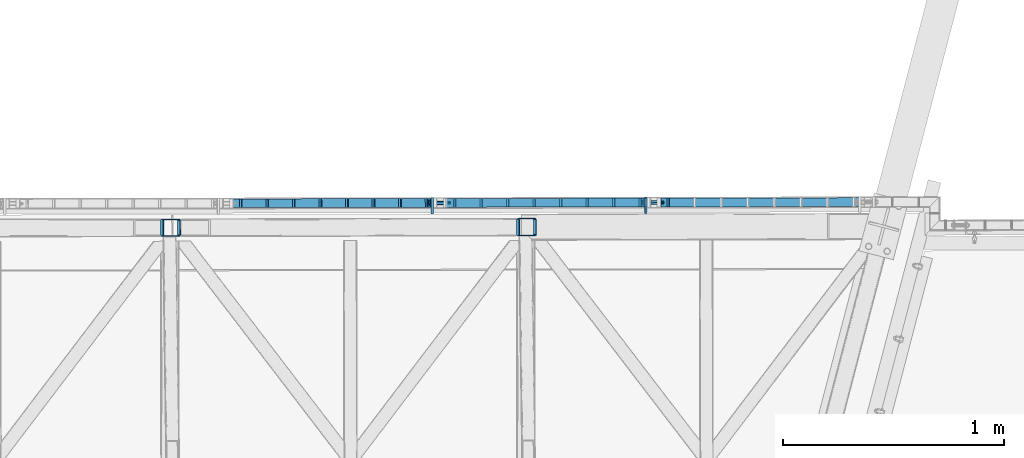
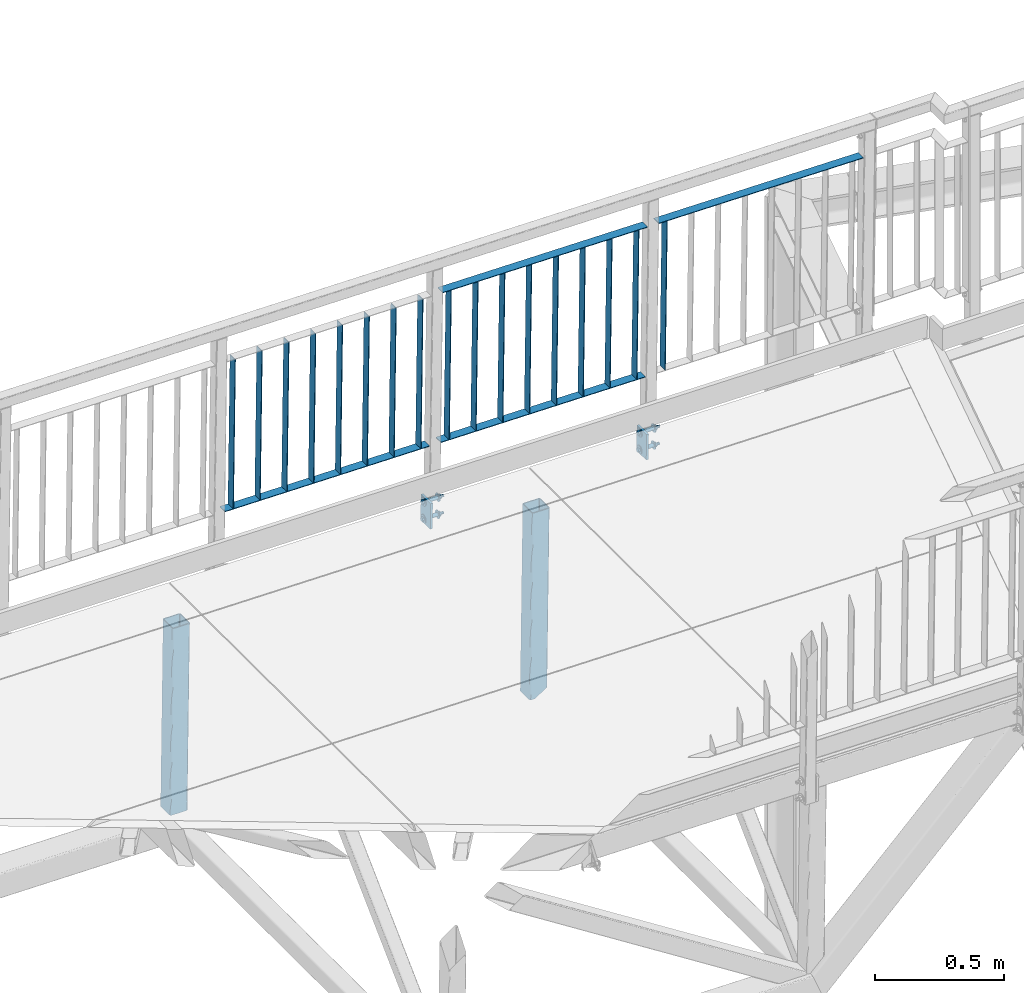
# One storey, part 121 of 169: 25 discrete accessories, 2 mechanical fasteners, 2 elements without a shape of their own.
"""IFC2X3 building model written with IfcOpenShell, lengths in millimetres."""

import ifcopenshell
import ifcopenshell.guid

model = None  # the IFC model being written
_history = None  # IfcOwnerHistory: only IFC2X3 demands one
_inside = {}  # id of a spatial element -> (the spatial element, [elements in it])
_under = {}  # id of a project, library or spatial element -> (it, [spatial elements below it])
_declared = {}  # id of a project -> (the project, [libraries it declares])
_typed = {}  # id of a type object -> (the type object, [elements of that type])
_made_of = {}  # id of a material, layer set ... -> (it, [elements and type objects made of it])


def new_model(schema):
    """Start an empty IFC model of exactly this schema.

    Asked for "IFC4X3", IfcOpenShell would pick the latest addendum, in which some entities
    have other attributes; the version numbers below select the first issue.
    IFC2X3 requires an IfcOwnerHistory on every rooted entity: one is made here for all.
    """
    global model, _history
    if schema == "IFC4X3":
        model = ifcopenshell.file(schema_version=(4, 3, 0, 0))
    else:
        model = ifcopenshell.file(schema=schema)
    _inside.clear()
    _under.clear()
    _declared.clear()
    _typed.clear()
    _made_of.clear()
    _history = None
    if model.schema == "IFC2X3":
        org = make("IfcOrganization", Name="unknown")
        user = make(
            "IfcPersonAndOrganization",
            ThePerson=make("IfcPerson", FamilyName="unknown"),
            TheOrganization=org,
        )
        app = make(
            "IfcApplication",
            ApplicationDeveloper=org,
            Version="unknown",
            ApplicationFullName="unknown",
            ApplicationIdentifier="unknown",
        )
        _history = make(
            "IfcOwnerHistory",
            OwningUser=user,
            OwningApplication=app,
            ChangeAction="ADDED",
            CreationDate=0,
        )
    return model


def make(cls, **values):
    """One entity of the class cls with the attributes given. An attribute that is None is left unset."""
    return model.create_entity(
        cls, **{name: value for name, value in values.items() if value is not None}
    )


def rooted(cls, **values):
    """An entity with a GlobalId (a new one), such as an element, a storey or a relation."""
    return make(cls, GlobalId=ifcopenshell.guid.new(), OwnerHistory=_history, **values)


def si_unit(unit_type, name, prefix=None):
    """IfcSIUnit, for example si_unit("LENGTHUNIT", "METRE", prefix="MILLI")."""
    return make("IfcSIUnit", UnitType=unit_type, Prefix=prefix, Name=name)


def assignment(units):
    """IfcUnitAssignment: the units of a project."""
    return None if units is None else make("IfcUnitAssignment", Units=units)


def point(xyz):
    """IfcCartesianPoint."""
    return None if xyz is None else make("IfcCartesianPoint", Coordinates=xyz)


def direction(xyz):
    """IfcDirection."""
    return None if xyz is None else make("IfcDirection", DirectionRatios=xyz)


def frame(location, z_axis=None, x_axis=None):
    """IfcAxis2Placement3D, a coordinate frame: its origin and axes. An axis left out is left unset."""
    return make(
        "IfcAxis2Placement3D",
        Location=point(location),
        Axis=direction(z_axis),
        RefDirection=direction(x_axis),
    )


def frame_2d(location, x_axis=None):
    """IfcAxis2Placement2D, a coordinate frame in the plane: its origin and x axis."""
    return make(
        "IfcAxis2Placement2D", Location=point(location), RefDirection=direction(x_axis)
    )


def origin_with_axes():
    """The frame at (0, 0, 0) with the z axis (0, 0, 1) and the x axis (1, 0, 0) written out."""
    return frame((0.0, 0.0, 0.0), z_axis=(0.0, 0.0, 1.0), x_axis=(1.0, 0.0, 0.0))


def origin_2d_with_axis():
    """The frame at (0, 0) in the plane with the x axis (1, 0) written out."""
    return frame_2d((0.0, 0.0), x_axis=(1.0, 0.0))


def place(relative_to, where):
    """IfcLocalPlacement: puts the frame where relative to a parent placement (None: the world)."""
    return make(
        "IfcLocalPlacement", PlacementRelTo=relative_to, RelativePlacement=where
    )


def context(
    kind, dimensions, precision=None, world=None, true_north=None, identifier=None
):
    """IfcGeometricRepresentationContext, for example the 3D "Model" context."""
    return make(
        "IfcGeometricRepresentationContext",
        ContextIdentifier=identifier,
        ContextType=kind,
        CoordinateSpaceDimension=dimensions,
        Precision=precision,
        WorldCoordinateSystem=world,
        TrueNorth=true_north,
    )


def subcontext(parent, identifier, kind, view, scale=None):
    """IfcGeometricRepresentationSubContext, for example "Body" below "Model"."""
    return make(
        "IfcGeometricRepresentationSubContext",
        ContextIdentifier=identifier,
        ContextType=kind,
        ParentContext=parent,
        TargetScale=scale,
        TargetView=view,
    )


def project(units=None, contexts=None):
    """IfcProject with its units and contexts."""
    return rooted(
        "IfcProject",
        Name="project",
        RepresentationContexts=contexts,
        UnitsInContext=assignment(units),
    )


def spatial(cls, under=None, at=None, **own):
    """A site, building, storey or space (cls), placed at a placement, below another one or the project."""
    s = rooted(cls, ObjectPlacement=at, **own)
    if under is not None:
        _under.setdefault(under.id(), (under, []))[1].append(s)
    return s


def polyline(points):
    """IfcPolyline through the points."""
    return make("IfcPolyline", Points=[point(p) for p in points])


def profile(cls, at=None, kind="AREA", **sizes):
    """A parametric profile (cls). Its sizes go by their IFC names, for example OverallWidth=200.0."""
    return make(cls, ProfileType=kind, Position=at, **sizes)


def rectangle(**sizes):
    """IfcRectangleProfileDef."""
    return profile("IfcRectangleProfileDef", **sizes)


def hollow_rectangle(**sizes):
    """IfcRectangleHollowProfileDef."""
    return profile("IfcRectangleHollowProfileDef", **sizes)


def circle(**sizes):
    """IfcCircleProfileDef."""
    return profile("IfcCircleProfileDef", **sizes)


def outline(outer, holes=None, kind="AREA"):
    """IfcArbitraryClosedProfileDef: a profile drawn as a closed curve; with holes, ...WithVoids."""
    if holes is None:
        return make("IfcArbitraryClosedProfileDef", ProfileType=kind, OuterCurve=outer)
    return make(
        "IfcArbitraryProfileDefWithVoids",
        ProfileType=kind,
        OuterCurve=outer,
        InnerCurves=holes,
    )


def extrude(swept, where, along, depth):
    """IfcExtrudedAreaSolid: the profile swept, set in the frame where, extruded along a direction by depth."""
    return make(
        "IfcExtrudedAreaSolid",
        SweptArea=swept,
        Position=where,
        ExtrudedDirection=direction(along),
        Depth=depth,
    )


def boolean(op, a, b):
    """IfcBooleanResult of two solids."""
    return make("IfcBooleanResult", Operator=op, FirstOperand=a, SecondOperand=b)


def clip(a, b, op="DIFFERENCE"):
    """IfcBooleanClippingResult: the solid a cut by the half space b."""
    return make(
        "IfcBooleanClippingResult", Operator=op, FirstOperand=a, SecondOperand=b
    )


def halfspace(plane, agree):
    """IfcHalfSpaceSolid: all space on one side of the plane z = 0 of the frame plane."""
    return make(
        "IfcHalfSpaceSolid",
        BaseSurface=make("IfcPlane", Position=plane),
        AgreementFlag=agree,
    )


def shape(context_of_items, identifier, shape_type, items):
    """IfcShapeRepresentation: the items that make up one representation, for example the "Body"."""
    return make(
        "IfcShapeRepresentation",
        ContextOfItems=context_of_items,
        RepresentationIdentifier=identifier,
        RepresentationType=shape_type,
        Items=items,
    )


def source(mapping_origin, context_of_items, identifier, shape_type, items):
    """IfcRepresentationMap: a shape defined once, which mapped items show again and again."""
    return make(
        "IfcRepresentationMap",
        MappingOrigin=mapping_origin,
        MappedRepresentation=shape(context_of_items, identifier, shape_type, items),
    )


def transform(
    local_origin,
    x_axis=None,
    y_axis=None,
    z_axis=None,
    scale=None,
    scale2=None,
    scale3=None,
    uniform=True,
):
    """IfcCartesianTransformationOperator3D, or its non-uniform kind. x_axis, y_axis, z_axis: its Axis1, 2, 3."""
    if uniform:
        return make(
            "IfcCartesianTransformationOperator3D",
            Axis1=direction(x_axis),
            Axis2=direction(y_axis),
            LocalOrigin=point(local_origin),
            Scale=scale,
            Axis3=direction(z_axis),
        )
    return make(
        "IfcCartesianTransformationOperator3DnonUniform",
        Axis1=direction(x_axis),
        Axis2=direction(y_axis),
        LocalOrigin=point(local_origin),
        Scale=scale,
        Axis3=direction(z_axis),
        Scale2=scale2,
        Scale3=scale3,
    )


def mapped(mapping_source, mapping_target):
    """IfcMappedItem: shows the shape of a source again, moved by a transform."""
    return make(
        "IfcMappedItem", MappingSource=mapping_source, MappingTarget=mapping_target
    )


def material(Name=None, Category=None):
    """IfcMaterial."""
    return make("IfcMaterial", Name=Name, Category=Category)


def made_of(thing, what):
    """Note that an element or type object is made of a material, layer set ...; save() writes the relation."""
    if what is not None:
        _made_of.setdefault(what.id(), (what, []))[1].append(thing)
    return thing


def type_object(cls, material=None, **own):
    """A type object (cls), such as IfcWallType, which elements share."""
    return made_of(rooted(cls, **own), material)


def element(
    cls,
    number,
    at=None,
    inside=None,
    cuts=None,
    type_object=None,
    material=None,
    context=None,
    identifier="Body",
    shape_type=None,
    held_by="IfcProductDefinitionShape",
    body=None,
    shapes=None,
    **own,
):
    """One element of the class cls, such as IfcWall. Its Tag is "e" and its number.

    at: its placement. inside: the storey or other place that contains it. cuts: it is an
    opening in that element (IfcRelVoidsElement). A single representation is given by context,
    identifier, shape_type and body (its items); several are given by shapes. held_by: the class
    of the entity that holds the representations. save() writes the other relations.
    """
    e = rooted(cls, Tag="e%d" % number, ObjectPlacement=at, **own)
    if body is not None:
        shapes = [shape(context, identifier, shape_type, body)]
    if shapes is not None:
        e.Representation = make(held_by, Representations=shapes)
    if inside is not None:
        _inside.setdefault(inside.id(), (inside, []))[1].append(e)
    if cuts is not None:
        rooted(
            "IfcRelVoidsElement", RelatingBuildingElement=cuts, RelatedOpeningElement=e
        )
    if type_object is not None:
        _typed.setdefault(type_object.id(), (type_object, []))[1].append(e)
    return made_of(e, material)


def aggregate(whole, parts):
    """IfcRelAggregates: a whole, such as a stair, and the parts it consists of."""
    return rooted("IfcRelAggregates", RelatingObject=whole, RelatedObjects=parts)


def save(model, path):
    """Write the relations noted so far, then the file.

    IfcRelAggregates (storeys below a building ...), IfcRelContainedInSpatialStructure (elements
    in a storey), IfcRelDefinesByType, IfcRelAssociatesMaterial and IfcRelDeclares: one each for
    every whole, place, type object, material and project.
    """
    for whole, parts in _under.values():
        aggregate(whole, parts)
    for where, things in _inside.values():
        rooted(
            "IfcRelContainedInSpatialStructure",
            RelatedElements=things,
            RelatingStructure=where,
        )
    for kind, things in _typed.values():
        rooted("IfcRelDefinesByType", RelatedObjects=things, RelatingType=kind)
    for what, things in _made_of.values():
        rooted("IfcRelAssociatesMaterial", RelatedObjects=things, RelatingMaterial=what)
    for by, libraries in _declared.values():
        rooted("IfcRelDeclares", RelatingContext=by, RelatedDefinitions=libraries)
    model.write(path)


model = new_model("IFC2X3")

# Units and contexts
model_context = context("Model", 3, precision=1e-05, world=origin_with_axes())
body_context = subcontext(model_context, "Body", "Model", "MODEL_VIEW")
ifc_project = project(units=[si_unit("LENGTHUNIT", "METRE", prefix="MILLI"), si_unit("AREAUNIT", "SQUARE_METRE"), si_unit("VOLUMEUNIT", "CUBIC_METRE"), si_unit("MASSUNIT", "GRAM", prefix="KILO"), si_unit("TIMEUNIT", "SECOND"), si_unit("PLANEANGLEUNIT", "RADIAN"), si_unit("SOLIDANGLEUNIT", "STERADIAN"), si_unit("THERMODYNAMICTEMPERATUREUNIT", "DEGREE_CELSIUS"), si_unit("LUMINOUSINTENSITYUNIT", "LUMEN")], contexts=[model_context])

# Site, building, storey
site_placement = place(None, origin_with_axes())
site = spatial("IfcSite", under=ifc_project, at=site_placement, Name="Undefined", CompositionType="ELEMENT")
building_placement = place(site_placement, origin_with_axes())
building = spatial("IfcBuilding", under=site, at=building_placement, Name="Undefined", CompositionType="ELEMENT")
storey_placement = place(building_placement, origin_with_axes())
storey = spatial("IfcBuildingStorey", under=building, at=storey_placement, Name="Undefined", CompositionType="ELEMENT", Elevation=0.0)

# Assembly, discrete accessories
assembly_1_placement = place(storey_placement, origin_with_axes())
assembly_1 = element("IfcElementAssembly", 1, at=assembly_1_placement, inside=storey, Name="Steel Assembly", AssemblyPlace="NOTDEFINED", PredefinedType="RIGID_FRAME")
ifc_material_1 = material(Name="STEEL/S235")
discrete_accessory_type_1 = type_object("IfcDiscreteAccessoryType", Name="BLACHA")
discrete_accessory_1_placement = place(assembly_1_placement, frame((17920.5853901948, 2338.43720336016, 13726.3743389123), z_axis=(0.9999174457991, 0.00186469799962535, -0.0127131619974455), x_axis=(-0.0018648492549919, 0.999998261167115, -4.2996762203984e-08)))
discrete_accessory_1 = element("IfcDiscreteAccessory", 2, at=discrete_accessory_1_placement, type_object=discrete_accessory_type_1, material=ifc_material_1, Name="BLACHA", ObjectType="BL10*120", context=body_context, shape_type="SweptSolid", body=[
    extrude(outline(polyline([(-5.35749222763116e-11, -59.9999999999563), (5.3567816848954e-11, 59.9999999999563), (75.0000002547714, 59.9999999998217), (75.0000002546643, -60.0000000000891), (-5.35749222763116e-11, -59.9999999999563)])), frame((-1.81898926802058e-12, -1.18000176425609e-16, -5.00000000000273), z_axis=(0.0, 0.0, 1.0), x_axis=(1.0, 0.0, 0.0)), (0.0, 0.0, 1.0), 10.0),
])
discrete_accessory_2_placement = place(assembly_1_placement, frame((16953.9707362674, 2336.63461110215, 13738.6640821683), z_axis=(0.9999174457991, 0.00186469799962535, -0.0127131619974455), x_axis=(-0.0018648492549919, 0.999998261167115, -4.2996762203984e-08)))
discrete_accessory_2 = element("IfcDiscreteAccessory", 3, at=discrete_accessory_2_placement, type_object=discrete_accessory_type_1, material=ifc_material_1, Name="BLACHA", ObjectType="BL10*120", context=body_context, shape_type="SweptSolid", body=[
    extrude(outline(polyline([(-5.35749222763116e-11, -59.9999999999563), (5.3567816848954e-11, 59.9999999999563), (75.0000002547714, 59.9999999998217), (75.0000002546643, -60.0000000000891), (-5.35749222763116e-11, -59.9999999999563)])), frame((-1.81898926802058e-12, -1.18000176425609e-16, -5.00000000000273), z_axis=(0.0, 0.0, 1.0), x_axis=(1.0, 0.0, 0.0)), (0.0, 0.0, 1.0), 10.0),
])
ifc_material_2 = material(Name="STEEL/S355")
discrete_accessory_type_2 = type_object("IfcDiscreteAccessoryType", Name="BEAM")
discrete_accessory_3_placement = place(assembly_1_placement, frame((17375.1949048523, 2277.42009863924, 12733.2290422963), z_axis=(-0.999917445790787, -0.00186469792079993, 0.0127131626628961), x_axis=(0.012713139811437, 2.3750999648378e-05, 0.999919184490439)))
discrete_accessory_3 = element("IfcDiscreteAccessory", 4, at=discrete_accessory_3_placement, type_object=discrete_accessory_type_2, material=ifc_material_2, Name="BEAM", ObjectType="K80/4", context=body_context, shape_type="CSG", body=[
    boolean("DIFFERENCE", boolean("DIFFERENCE", boolean("DIFFERENCE", boolean("DIFFERENCE", extrude(hollow_rectangle(XDim=80.0, YDim=80.0, WallThickness=4.0, InnerFilletRadius=4.0, OuterFilletRadius=8.0, at=origin_2d_with_axis()), frame((940.000112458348, 4.54747487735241e-13, 0.0), z_axis=(-1.0, -3.46944695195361e-18, -1.38777878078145e-17), x_axis=(1.73472347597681e-18, -1.0, 0.0)), (0.0, 0.0, 1.0), 940.98), extrude(rectangle(XDim=122.0, YDim=122.0, at=origin_2d_with_axis()), frame((54.4322938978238, 1.04372085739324e-07, -84.8443317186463), z_axis=(-0.539666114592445, -1.04408014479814e-09, 0.841879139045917), x_axis=(-0.841879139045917, -5.61803909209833e-10, -0.539666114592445)), (0.0, 0.0, 1.0), 201.56)), extrude(rectangle(XDim=122.0, YDim=122.0, at=origin_2d_with_axis()), frame((0.000109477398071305, -4.09399143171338e-06, -139.999999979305), z_axis=(0.0, 0.0, 1.0), x_axis=(-1.0, -3.46944695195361e-18, -1.38777878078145e-17)), (0.0, 0.0, 1.0), 280.0)), halfspace(frame((940.000112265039, -6.72889655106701e-09, 999.999999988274), z_axis=(-1.0, -3.46944695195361e-18, -1.38777878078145e-17), x_axis=(1.73472347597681e-18, -1.0, 0.0)), True)), halfspace(frame((1.92503648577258e-08, -1.77351466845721e-11, 0.0700467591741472), z_axis=(-0.841879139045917, -5.61803909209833e-10, -0.539666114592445), x_axis=(1.73472347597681e-18, -1.0, 0.0)), False)),
])
discrete_accessory_4_placement = place(assembly_1_placement, frame((15765.3277764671, 2274.41793420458, 12753.6972333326), z_axis=(-0.999917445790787, -0.00186469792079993, 0.0127131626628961), x_axis=(0.012713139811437, 2.3750999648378e-05, 0.999919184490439)))
discrete_accessory_4 = element("IfcDiscreteAccessory", 5, at=discrete_accessory_4_placement, type_object=discrete_accessory_type_2, material=ifc_material_2, Name="BEAM", ObjectType="K80/4", context=body_context, shape_type="Clipping", body=[
    clip(clip(extrude(hollow_rectangle(XDim=80.0, YDim=80.0, WallThickness=4.0, InnerFilletRadius=4.0, OuterFilletRadius=8.0, at=origin_2d_with_axis()), frame((940.000112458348, 4.54747487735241e-13, 0.0), z_axis=(-1.0, -3.46944695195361e-18, -1.38777878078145e-17), x_axis=(1.73472347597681e-18, -1.0, 0.0)), (0.0, 0.0, 1.0), 880.0), halfspace(frame((940.000112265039, -6.72889655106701e-09, 999.999999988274), z_axis=(-1.0, -3.46944695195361e-18, -1.38777878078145e-17), x_axis=(1.73472347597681e-18, -1.0, 0.0)), True)), halfspace(frame((60.0001122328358, 8.14088707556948e-09, 1000.00000001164), z_axis=(1.0, 0.0, 0.0), x_axis=(0.0, 1.0, 0.0)), True)),
])
aggregate(assembly_1, [discrete_accessory_1, discrete_accessory_2, discrete_accessory_3, discrete_accessory_4])

# Assembly, discrete accessories, mechanical fasteners
assembly_2_placement = place(storey_placement, origin_with_axes())
assembly_2 = element("IfcElementAssembly", 6, at=assembly_2_placement, inside=storey, Name="Steel Assembly", AssemblyPlace="NOTDEFINED", PredefinedType="RIGID_FRAME")
discrete_accessory_type_3 = type_object("IfcDiscreteAccessoryType", Name="PORĘCZ")
discrete_accessory_5_placement = place(assembly_2_placement, frame((16996.7788543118, 2386.71457782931, 14753.2006570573), z_axis=(-0.012713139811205, -2.37511238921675e-05, -0.999919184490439), x_axis=(0.9999174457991, 0.00186469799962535, -0.0127131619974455)))
discrete_accessory_5 = element("IfcDiscreteAccessory", 7, at=discrete_accessory_5_placement, type_object=discrete_accessory_type_3, material=ifc_material_1, Name="PORĘCZ", ObjectType="BL40*3", context=body_context, shape_type="CSG", body=[
    boolean("DIFFERENCE", boolean("DIFFERENCE", extrude(outline(polyline([(25.4999999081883, 20.0000000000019), (941.194458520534, 20.0000000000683), (941.194458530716, -19.9999999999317), (25.499999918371, -19.9999999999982), (25.4999999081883, 20.0000000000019)])), frame((1.81898940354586e-12, -1.77635442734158e-15, -1.50000000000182), z_axis=(0.0, 0.0, 1.0), x_axis=(1.0, 0.0, 0.0)), (0.0, 0.0, 1.0), 3.0), extrude(rectangle(XDim=51.0, YDim=51.0, at=origin_2d_with_axis()), frame((-5.94487782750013e-08, -4.65977194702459e-09, -139.999999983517), z_axis=(0.0, 0.0, 1.0), x_axis=(1.0, 0.0, 0.0)), (0.0, 0.0, 1.0), 280.0)), extrude(rectangle(XDim=51.0, YDim=51.0, at=origin_2d_with_axis()), frame((966.694458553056, -6.96000839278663e-09, -139.999999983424), z_axis=(0.0, 0.0, 1.0), x_axis=(1.0, 0.0, 0.0)), (0.0, 0.0, 1.0), 280.0)),
])
discrete_accessory_6_placement = place(assembly_2_placement, frame((17963.3935082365, 2388.51717105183, 14740.910913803), z_axis=(-0.012713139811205, -2.37511238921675e-05, -0.999919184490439), x_axis=(0.9999174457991, 0.00186469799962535, -0.0127131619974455)))
discrete_accessory_6 = element("IfcDiscreteAccessory", 8, at=discrete_accessory_6_placement, type_object=discrete_accessory_type_3, material=ifc_material_1, Name="PORĘCZ", ObjectType="BL40*3", context=body_context, shape_type="CSG", body=[
    boolean("DIFFERENCE", boolean("DIFFERENCE", extrude(outline(polyline([(25.4999999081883, 20.0000000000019), (941.194458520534, 20.0000000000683), (941.194458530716, -19.9999999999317), (25.499999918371, -19.9999999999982), (25.4999999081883, 20.0000000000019)])), frame((1.81898940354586e-12, -1.77635442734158e-15, -1.50000000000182), z_axis=(0.0, 0.0, 1.0), x_axis=(1.0, 0.0, 0.0)), (0.0, 0.0, 1.0), 3.0), extrude(rectangle(XDim=51.0, YDim=51.0, at=origin_2d_with_axis()), frame((-5.94487782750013e-08, -4.65977194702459e-09, -139.999999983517), z_axis=(0.0, 0.0, 1.0), x_axis=(1.0, 0.0, 0.0)), (0.0, 0.0, 1.0), 280.0)), extrude(rectangle(XDim=51.0, YDim=51.0, at=origin_2d_with_axis()), frame((966.694458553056, -6.96000839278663e-09, -139.999999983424), z_axis=(0.0, 0.0, 1.0), x_axis=(1.0, 0.0, 0.0)), (0.0, 0.0, 1.0), 280.0)),
])
discrete_accessory_7_placement = place(assembly_2_placement, frame((16095.3496052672, 2385.03355197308, 14909.6733384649), z_axis=(0.00186484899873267, -0.999998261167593, 4.28757666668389e-08), x_axis=(-0.012713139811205, -2.37511238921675e-05, -0.999919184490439)))
discrete_accessory_7 = element("IfcDiscreteAccessory", 9, at=discrete_accessory_7_placement, type_object=discrete_accessory_type_3, material=ifc_material_1, Name="PORĘCZ", ObjectType="BL40*3", context=body_context, shape_type="Clipping", body=[
    clip(clip(extrude(rectangle(XDim=3.0, YDim=40.0, at=origin_2d_with_axis()), frame((848.500000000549, 1.47191286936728e-15, -8.89750592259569e-16), z_axis=(-1.0, -3.46944695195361e-18, -1.38777878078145e-17), x_axis=(1.73472347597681e-18, -1.0, 0.0)), (0.0, 0.0, 1.0), 702.0), halfspace(frame((848.499999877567, 4.522007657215e-09, 1000.00000000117), z_axis=(-1.0, -3.46944695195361e-18, -1.38777878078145e-17), x_axis=(1.73472347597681e-18, -1.0, 0.0)), True)), halfspace(frame((146.499999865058, 4.97311702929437e-09, 1000.00000000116), z_axis=(1.0, 0.0, 0.0), x_axis=(0.0, 1.0, 0.0)), True)),
])
discrete_accessory_8_placement = place(assembly_2_placement, frame((16215.3396987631, 2385.25731573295, 14908.1477590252), z_axis=(0.00186484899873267, -0.999998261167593, 4.28757666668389e-08), x_axis=(-0.012713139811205, -2.37511238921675e-05, -0.999919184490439)))
discrete_accessory_8 = element("IfcDiscreteAccessory", 10, at=discrete_accessory_8_placement, type_object=discrete_accessory_type_3, material=ifc_material_1, Name="PORĘCZ", ObjectType="BL40*3", context=body_context, shape_type="Clipping", body=[
    clip(clip(extrude(rectangle(XDim=3.0, YDim=40.0, at=origin_2d_with_axis()), frame((848.500000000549, 1.47191286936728e-15, -8.89750592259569e-16), z_axis=(-1.0, -3.46944695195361e-18, -1.38777878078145e-17), x_axis=(1.73472347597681e-18, -1.0, 0.0)), (0.0, 0.0, 1.0), 702.0), halfspace(frame((848.499999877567, 4.522007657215e-09, 1000.00000000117), z_axis=(-1.0, -3.46944695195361e-18, -1.38777878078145e-17), x_axis=(1.73472347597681e-18, -1.0, 0.0)), True)), halfspace(frame((146.499999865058, 4.97311702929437e-09, 1000.00000000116), z_axis=(1.0, 0.0, 0.0), x_axis=(0.0, 1.0, 0.0)), True)),
])
discrete_accessory_9_placement = place(assembly_2_placement, frame((16335.3297922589, 2385.48107949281, 14906.6221795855), z_axis=(0.00186484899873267, -0.999998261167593, 4.28757666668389e-08), x_axis=(-0.012713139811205, -2.37511238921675e-05, -0.999919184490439)))
discrete_accessory_9 = element("IfcDiscreteAccessory", 11, at=discrete_accessory_9_placement, type_object=discrete_accessory_type_3, material=ifc_material_1, Name="PORĘCZ", ObjectType="BL40*3", context=body_context, shape_type="Clipping", body=[
    clip(clip(extrude(rectangle(XDim=3.0, YDim=40.0, at=origin_2d_with_axis()), frame((848.500000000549, 1.47191286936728e-15, -8.89750592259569e-16), z_axis=(-1.0, -3.46944695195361e-18, -1.38777878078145e-17), x_axis=(1.73472347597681e-18, -1.0, 0.0)), (0.0, 0.0, 1.0), 702.0), halfspace(frame((848.499999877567, 4.522007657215e-09, 1000.00000000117), z_axis=(-1.0, -3.46944695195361e-18, -1.38777878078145e-17), x_axis=(1.73472347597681e-18, -1.0, 0.0)), True)), halfspace(frame((146.499999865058, 4.97311702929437e-09, 1000.00000000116), z_axis=(1.0, 0.0, 0.0), x_axis=(0.0, 1.0, 0.0)), True)),
])
discrete_accessory_10_placement = place(assembly_2_placement, frame((16455.3198857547, 2385.70484325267, 14905.0966001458), z_axis=(0.00186484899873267, -0.999998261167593, 4.28757666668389e-08), x_axis=(-0.012713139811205, -2.37511238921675e-05, -0.999919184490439)))
discrete_accessory_10 = element("IfcDiscreteAccessory", 12, at=discrete_accessory_10_placement, type_object=discrete_accessory_type_3, material=ifc_material_1, Name="PORĘCZ", ObjectType="BL40*3", context=body_context, shape_type="Clipping", body=[
    clip(clip(extrude(rectangle(XDim=3.0, YDim=40.0, at=origin_2d_with_axis()), frame((848.500000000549, 1.47191286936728e-15, -8.89750592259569e-16), z_axis=(-1.0, -3.46944695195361e-18, -1.38777878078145e-17), x_axis=(1.73472347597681e-18, -1.0, 0.0)), (0.0, 0.0, 1.0), 702.0), halfspace(frame((848.499999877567, 4.522007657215e-09, 1000.00000000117), z_axis=(-1.0, -3.46944695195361e-18, -1.38777878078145e-17), x_axis=(1.73472347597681e-18, -1.0, 0.0)), True)), halfspace(frame((146.499999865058, 4.97311702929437e-09, 1000.00000000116), z_axis=(1.0, 0.0, 0.0), x_axis=(0.0, 1.0, 0.0)), True)),
])
discrete_accessory_11_placement = place(assembly_2_placement, frame((16575.3099792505, 2385.92860701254, 14903.5710207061), z_axis=(0.00186484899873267, -0.999998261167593, 4.28757666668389e-08), x_axis=(-0.012713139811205, -2.37511238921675e-05, -0.999919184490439)))
discrete_accessory_11 = element("IfcDiscreteAccessory", 13, at=discrete_accessory_11_placement, type_object=discrete_accessory_type_3, material=ifc_material_1, Name="PORĘCZ", ObjectType="BL40*3", context=body_context, shape_type="Clipping", body=[
    clip(clip(extrude(rectangle(XDim=3.0, YDim=40.0, at=origin_2d_with_axis()), frame((848.500000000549, 1.47191286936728e-15, -8.89750592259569e-16), z_axis=(-1.0, -3.46944695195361e-18, -1.38777878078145e-17), x_axis=(1.73472347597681e-18, -1.0, 0.0)), (0.0, 0.0, 1.0), 702.0), halfspace(frame((848.499999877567, 4.522007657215e-09, 1000.00000000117), z_axis=(-1.0, -3.46944695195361e-18, -1.38777878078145e-17), x_axis=(1.73472347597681e-18, -1.0, 0.0)), True)), halfspace(frame((146.499999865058, 4.97311702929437e-09, 1000.00000000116), z_axis=(1.0, 0.0, 0.0), x_axis=(0.0, 1.0, 0.0)), True)),
])
discrete_accessory_12_placement = place(assembly_2_placement, frame((16695.3000727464, 2386.1523707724, 14902.0454412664), z_axis=(0.00186484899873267, -0.999998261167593, 4.28757666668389e-08), x_axis=(-0.012713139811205, -2.37511238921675e-05, -0.999919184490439)))
discrete_accessory_12 = element("IfcDiscreteAccessory", 14, at=discrete_accessory_12_placement, type_object=discrete_accessory_type_3, material=ifc_material_1, Name="PORĘCZ", ObjectType="BL40*3", context=body_context, shape_type="Clipping", body=[
    clip(clip(extrude(rectangle(XDim=3.0, YDim=40.0, at=origin_2d_with_axis()), frame((848.500000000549, 1.47191286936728e-15, -8.89750592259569e-16), z_axis=(-1.0, -3.46944695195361e-18, -1.38777878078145e-17), x_axis=(1.73472347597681e-18, -1.0, 0.0)), (0.0, 0.0, 1.0), 702.0), halfspace(frame((848.499999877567, 4.522007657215e-09, 1000.00000000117), z_axis=(-1.0, -3.46944695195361e-18, -1.38777878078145e-17), x_axis=(1.73472347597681e-18, -1.0, 0.0)), True)), halfspace(frame((146.499999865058, 4.97311702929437e-09, 1000.00000000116), z_axis=(1.0, 0.0, 0.0), x_axis=(0.0, 1.0, 0.0)), True)),
])
discrete_accessory_13_placement = place(assembly_2_placement, frame((16815.2901662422, 2386.37613453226, 14900.5198618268), z_axis=(0.00186484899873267, -0.999998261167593, 4.28757666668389e-08), x_axis=(-0.012713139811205, -2.37511238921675e-05, -0.999919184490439)))
discrete_accessory_13 = element("IfcDiscreteAccessory", 15, at=discrete_accessory_13_placement, type_object=discrete_accessory_type_3, material=ifc_material_1, Name="PORĘCZ", ObjectType="BL40*3", context=body_context, shape_type="Clipping", body=[
    clip(clip(extrude(rectangle(XDim=3.0, YDim=40.0, at=origin_2d_with_axis()), frame((848.500000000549, 1.47191286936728e-15, -8.89750592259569e-16), z_axis=(-1.0, -3.46944695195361e-18, -1.38777878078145e-17), x_axis=(1.73472347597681e-18, -1.0, 0.0)), (0.0, 0.0, 1.0), 702.0), halfspace(frame((848.499999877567, 4.522007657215e-09, 1000.00000000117), z_axis=(-1.0, -3.46944695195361e-18, -1.38777878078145e-17), x_axis=(1.73472347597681e-18, -1.0, 0.0)), True)), halfspace(frame((146.499999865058, 4.97311702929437e-09, 1000.00000000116), z_axis=(1.0, 0.0, 0.0), x_axis=(0.0, 1.0, 0.0)), True)),
])
discrete_accessory_14_placement = place(assembly_2_placement, frame((16935.280259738, 2386.59989829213, 14898.9942823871), z_axis=(0.00186484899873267, -0.999998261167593, 4.28757666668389e-08), x_axis=(-0.012713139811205, -2.37511238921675e-05, -0.999919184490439)))
discrete_accessory_14 = element("IfcDiscreteAccessory", 16, at=discrete_accessory_14_placement, type_object=discrete_accessory_type_3, material=ifc_material_1, Name="PORĘCZ", ObjectType="BL40*3", context=body_context, shape_type="Clipping", body=[
    clip(clip(extrude(rectangle(XDim=3.0, YDim=40.0, at=origin_2d_with_axis()), frame((848.500000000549, 1.47191286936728e-15, -8.89750592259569e-16), z_axis=(-1.0, -3.46944695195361e-18, -1.38777878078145e-17), x_axis=(1.73472347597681e-18, -1.0, 0.0)), (0.0, 0.0, 1.0), 702.0), halfspace(frame((848.499999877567, 4.522007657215e-09, 1000.00000000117), z_axis=(-1.0, -3.46944695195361e-18, -1.38777878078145e-17), x_axis=(1.73472347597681e-18, -1.0, 0.0)), True)), halfspace(frame((146.499999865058, 4.97311702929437e-09, 1000.00000000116), z_axis=(1.0, 0.0, 0.0), x_axis=(0.0, 1.0, 0.0)), True)),
])
discrete_accessory_15_placement = place(assembly_2_placement, frame((17061.9642591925, 2386.83614519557, 14897.3835952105), z_axis=(0.00186484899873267, -0.999998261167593, 4.28757666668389e-08), x_axis=(-0.012713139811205, -2.37511238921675e-05, -0.999919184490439)))
discrete_accessory_15 = element("IfcDiscreteAccessory", 17, at=discrete_accessory_15_placement, type_object=discrete_accessory_type_3, material=ifc_material_1, Name="PORĘCZ", ObjectType="BL40*3", context=body_context, shape_type="Clipping", body=[
    clip(clip(extrude(rectangle(XDim=3.0, YDim=40.0, at=origin_2d_with_axis()), frame((848.500000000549, 1.47191286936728e-15, -8.89750592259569e-16), z_axis=(-1.0, -3.46944695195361e-18, -1.38777878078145e-17), x_axis=(1.73472347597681e-18, -1.0, 0.0)), (0.0, 0.0, 1.0), 702.0), halfspace(frame((848.499999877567, 4.522007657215e-09, 1000.00000000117), z_axis=(-1.0, -3.46944695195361e-18, -1.38777878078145e-17), x_axis=(1.73472347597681e-18, -1.0, 0.0)), True)), halfspace(frame((146.499999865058, 4.97311702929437e-09, 1000.00000000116), z_axis=(1.0, 0.0, 0.0), x_axis=(0.0, 1.0, 0.0)), True)),
])
discrete_accessory_16_placement = place(assembly_2_placement, frame((17181.9543526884, 2387.05990895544, 14895.8580157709), z_axis=(0.00186484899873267, -0.999998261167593, 4.28757666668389e-08), x_axis=(-0.012713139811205, -2.37511238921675e-05, -0.999919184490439)))
discrete_accessory_16 = element("IfcDiscreteAccessory", 18, at=discrete_accessory_16_placement, type_object=discrete_accessory_type_3, material=ifc_material_1, Name="PORĘCZ", ObjectType="BL40*3", context=body_context, shape_type="Clipping", body=[
    clip(clip(extrude(rectangle(XDim=3.0, YDim=40.0, at=origin_2d_with_axis()), frame((848.500000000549, 1.47191286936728e-15, -8.89750592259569e-16), z_axis=(-1.0, -3.46944695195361e-18, -1.38777878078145e-17), x_axis=(1.73472347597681e-18, -1.0, 0.0)), (0.0, 0.0, 1.0), 702.0), halfspace(frame((848.499999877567, 4.522007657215e-09, 1000.00000000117), z_axis=(-1.0, -3.46944695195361e-18, -1.38777878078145e-17), x_axis=(1.73472347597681e-18, -1.0, 0.0)), True)), halfspace(frame((146.499999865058, 4.97311702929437e-09, 1000.00000000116), z_axis=(1.0, 0.0, 0.0), x_axis=(0.0, 1.0, 0.0)), True)),
])
discrete_accessory_17_placement = place(assembly_2_placement, frame((17301.9444461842, 2387.2836727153, 14894.3324363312), z_axis=(0.00186484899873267, -0.999998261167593, 4.28757666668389e-08), x_axis=(-0.012713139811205, -2.37511238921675e-05, -0.999919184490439)))
discrete_accessory_17 = element("IfcDiscreteAccessory", 19, at=discrete_accessory_17_placement, type_object=discrete_accessory_type_3, material=ifc_material_1, Name="PORĘCZ", ObjectType="BL40*3", context=body_context, shape_type="Clipping", body=[
    clip(clip(extrude(rectangle(XDim=3.0, YDim=40.0, at=origin_2d_with_axis()), frame((848.500000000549, 1.47191286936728e-15, -8.89750592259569e-16), z_axis=(-1.0, -3.46944695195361e-18, -1.38777878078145e-17), x_axis=(1.73472347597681e-18, -1.0, 0.0)), (0.0, 0.0, 1.0), 702.0), halfspace(frame((848.499999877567, 4.522007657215e-09, 1000.00000000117), z_axis=(-1.0, -3.46944695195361e-18, -1.38777878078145e-17), x_axis=(1.73472347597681e-18, -1.0, 0.0)), True)), halfspace(frame((146.499999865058, 4.97311702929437e-09, 1000.00000000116), z_axis=(1.0, 0.0, 0.0), x_axis=(0.0, 1.0, 0.0)), True)),
])
discrete_accessory_18_placement = place(assembly_2_placement, frame((17421.93453968, 2387.50743647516, 14892.8068568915), z_axis=(0.00186484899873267, -0.999998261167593, 4.28757666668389e-08), x_axis=(-0.012713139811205, -2.37511238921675e-05, -0.999919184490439)))
discrete_accessory_18 = element("IfcDiscreteAccessory", 20, at=discrete_accessory_18_placement, type_object=discrete_accessory_type_3, material=ifc_material_1, Name="PORĘCZ", ObjectType="BL40*3", context=body_context, shape_type="Clipping", body=[
    clip(clip(extrude(rectangle(XDim=3.0, YDim=40.0, at=origin_2d_with_axis()), frame((848.500000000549, 1.47191286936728e-15, -8.89750592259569e-16), z_axis=(-1.0, -3.46944695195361e-18, -1.38777878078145e-17), x_axis=(1.73472347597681e-18, -1.0, 0.0)), (0.0, 0.0, 1.0), 702.0), halfspace(frame((848.499999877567, 4.522007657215e-09, 1000.00000000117), z_axis=(-1.0, -3.46944695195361e-18, -1.38777878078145e-17), x_axis=(1.73472347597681e-18, -1.0, 0.0)), True)), halfspace(frame((146.499999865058, 4.97311702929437e-09, 1000.00000000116), z_axis=(1.0, 0.0, 0.0), x_axis=(0.0, 1.0, 0.0)), True)),
])
discrete_accessory_19_placement = place(assembly_2_placement, frame((17541.9246331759, 2387.73120023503, 14891.2812774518), z_axis=(0.00186484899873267, -0.999998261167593, 4.28757666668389e-08), x_axis=(-0.012713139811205, -2.37511238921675e-05, -0.999919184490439)))
discrete_accessory_19 = element("IfcDiscreteAccessory", 21, at=discrete_accessory_19_placement, type_object=discrete_accessory_type_3, material=ifc_material_1, Name="PORĘCZ", ObjectType="BL40*3", context=body_context, shape_type="Clipping", body=[
    clip(clip(extrude(rectangle(XDim=3.0, YDim=40.0, at=origin_2d_with_axis()), frame((848.500000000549, 1.47191286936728e-15, -8.89750592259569e-16), z_axis=(-1.0, -3.46944695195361e-18, -1.38777878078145e-17), x_axis=(1.73472347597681e-18, -1.0, 0.0)), (0.0, 0.0, 1.0), 702.0), halfspace(frame((848.499999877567, 4.522007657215e-09, 1000.00000000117), z_axis=(-1.0, -3.46944695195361e-18, -1.38777878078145e-17), x_axis=(1.73472347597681e-18, -1.0, 0.0)), True)), halfspace(frame((146.499999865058, 4.97311702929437e-09, 1000.00000000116), z_axis=(1.0, 0.0, 0.0), x_axis=(0.0, 1.0, 0.0)), True)),
])
discrete_accessory_20_placement = place(assembly_2_placement, frame((17661.9147266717, 2387.95496399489, 14889.7556980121), z_axis=(0.00186484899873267, -0.999998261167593, 4.28757666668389e-08), x_axis=(-0.012713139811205, -2.37511238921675e-05, -0.999919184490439)))
discrete_accessory_20 = element("IfcDiscreteAccessory", 22, at=discrete_accessory_20_placement, type_object=discrete_accessory_type_3, material=ifc_material_1, Name="PORĘCZ", ObjectType="BL40*3", context=body_context, shape_type="Clipping", body=[
    clip(clip(extrude(rectangle(XDim=3.0, YDim=40.0, at=origin_2d_with_axis()), frame((848.500000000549, 1.47191286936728e-15, -8.89750592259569e-16), z_axis=(-1.0, -3.46944695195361e-18, -1.38777878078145e-17), x_axis=(1.73472347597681e-18, -1.0, 0.0)), (0.0, 0.0, 1.0), 702.0), halfspace(frame((848.499999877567, 4.522007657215e-09, 1000.00000000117), z_axis=(-1.0, -3.46944695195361e-18, -1.38777878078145e-17), x_axis=(1.73472347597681e-18, -1.0, 0.0)), True)), halfspace(frame((146.499999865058, 4.97311702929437e-09, 1000.00000000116), z_axis=(1.0, 0.0, 0.0), x_axis=(0.0, 1.0, 0.0)), True)),
])
discrete_accessory_21_placement = place(assembly_2_placement, frame((17781.9048201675, 2388.17872775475, 14888.2301185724), z_axis=(0.00186484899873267, -0.999998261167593, 4.28757666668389e-08), x_axis=(-0.012713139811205, -2.37511238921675e-05, -0.999919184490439)))
discrete_accessory_21 = element("IfcDiscreteAccessory", 23, at=discrete_accessory_21_placement, type_object=discrete_accessory_type_3, material=ifc_material_1, Name="PORĘCZ", ObjectType="BL40*3", context=body_context, shape_type="Clipping", body=[
    clip(clip(extrude(rectangle(XDim=3.0, YDim=40.0, at=origin_2d_with_axis()), frame((848.500000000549, 1.47191286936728e-15, -8.89750592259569e-16), z_axis=(-1.0, -3.46944695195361e-18, -1.38777878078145e-17), x_axis=(1.73472347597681e-18, -1.0, 0.0)), (0.0, 0.0, 1.0), 702.0), halfspace(frame((848.499999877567, 4.522007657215e-09, 1000.00000000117), z_axis=(-1.0, -3.46944695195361e-18, -1.38777878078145e-17), x_axis=(1.73472347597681e-18, -1.0, 0.0)), True)), halfspace(frame((146.499999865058, 4.97311702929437e-09, 1000.00000000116), z_axis=(1.0, 0.0, 0.0), x_axis=(0.0, 1.0, 0.0)), True)),
])
discrete_accessory_22_placement = place(assembly_2_placement, frame((17901.8949136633, 2388.40249151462, 14886.7045391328), z_axis=(0.00186484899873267, -0.999998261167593, 4.28757666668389e-08), x_axis=(-0.012713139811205, -2.37511238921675e-05, -0.999919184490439)))
discrete_accessory_22 = element("IfcDiscreteAccessory", 24, at=discrete_accessory_22_placement, type_object=discrete_accessory_type_3, material=ifc_material_1, Name="PORĘCZ", ObjectType="BL40*3", context=body_context, shape_type="Clipping", body=[
    clip(clip(extrude(rectangle(XDim=3.0, YDim=40.0, at=origin_2d_with_axis()), frame((848.500000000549, 1.47191286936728e-15, -8.89750592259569e-16), z_axis=(-1.0, -3.46944695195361e-18, -1.38777878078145e-17), x_axis=(1.73472347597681e-18, -1.0, 0.0)), (0.0, 0.0, 1.0), 702.0), halfspace(frame((848.499999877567, 4.522007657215e-09, 1000.00000000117), z_axis=(-1.0, -3.46944695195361e-18, -1.38777878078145e-17), x_axis=(1.73472347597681e-18, -1.0, 0.0)), True)), halfspace(frame((146.499999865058, 4.97311702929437e-09, 1000.00000000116), z_axis=(1.0, 0.0, 0.0), x_axis=(0.0, 1.0, 0.0)), True)),
])
discrete_accessory_23_placement = place(assembly_2_placement, frame((18028.5789131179, 2388.63873841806, 14885.0938519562), z_axis=(0.00186484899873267, -0.999998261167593, 4.28757666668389e-08), x_axis=(-0.012713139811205, -2.37511238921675e-05, -0.999919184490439)))
discrete_accessory_23 = element("IfcDiscreteAccessory", 25, at=discrete_accessory_23_placement, type_object=discrete_accessory_type_3, material=ifc_material_1, Name="PORĘCZ", ObjectType="BL40*3", context=body_context, shape_type="Clipping", body=[
    clip(clip(extrude(rectangle(XDim=3.0, YDim=40.0, at=origin_2d_with_axis()), frame((848.500000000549, 1.47191286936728e-15, -8.89750592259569e-16), z_axis=(-1.0, -3.46944695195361e-18, -1.38777878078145e-17), x_axis=(1.73472347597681e-18, -1.0, 0.0)), (0.0, 0.0, 1.0), 702.0), halfspace(frame((848.499999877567, 4.522007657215e-09, 1000.00000000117), z_axis=(-1.0, -3.46944695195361e-18, -1.38777878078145e-17), x_axis=(1.73472347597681e-18, -1.0, 0.0)), True)), halfspace(frame((146.499999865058, 4.97311702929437e-09, 1000.00000000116), z_axis=(1.0, 0.0, 0.0), x_axis=(0.0, 1.0, 0.0)), True)),
])
discrete_accessory_24_placement = place(assembly_2_placement, frame((16021.2014368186, 2384.89524006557, 14060.5473752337), z_axis=(-0.012713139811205, -2.37511238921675e-05, -0.999919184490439), x_axis=(0.9999174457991, 0.00186469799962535, -0.0127131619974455)))
discrete_accessory_24 = element("IfcDiscreteAccessory", 26, at=discrete_accessory_24_placement, type_object=discrete_accessory_type_3, material=ifc_material_1, Name="PORĘCZ", ObjectType="BL40*3", context=body_context, shape_type="CSG", body=[
    boolean("DIFFERENCE", boolean("DIFFERENCE", extrude(outline(polyline([(25.4999999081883, 20.0000000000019), (941.194458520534, 20.0000000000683), (941.194458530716, -19.9999999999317), (25.499999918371, -19.9999999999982), (25.4999999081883, 20.0000000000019)])), frame((1.81898940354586e-12, -1.77635442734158e-15, -1.50000000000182), z_axis=(0.0, 0.0, 1.0), x_axis=(1.0, 0.0, 0.0)), (0.0, 0.0, 1.0), 3.0), extrude(rectangle(XDim=51.0, YDim=51.0, at=origin_2d_with_axis()), frame((-5.94487782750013e-08, -4.65977194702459e-09, -139.999999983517), z_axis=(0.0, 0.0, 1.0), x_axis=(1.0, 0.0, 0.0)), (0.0, 0.0, 1.0), 280.0)), extrude(rectangle(XDim=51.0, YDim=51.0, at=origin_2d_with_axis()), frame((966.694458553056, -6.96000839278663e-09, -139.999999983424), z_axis=(0.0, 0.0, 1.0), x_axis=(1.0, 0.0, 0.0)), (0.0, 0.0, 1.0), 280.0)),
])
discrete_accessory_25_placement = place(assembly_2_placement, frame((16987.8160907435, 2386.69783328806, 14048.2576319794), z_axis=(-0.012713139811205, -2.37511238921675e-05, -0.999919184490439), x_axis=(0.9999174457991, 0.00186469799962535, -0.0127131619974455)))
discrete_accessory_25 = element("IfcDiscreteAccessory", 27, at=discrete_accessory_25_placement, type_object=discrete_accessory_type_3, material=ifc_material_1, Name="PORĘCZ", ObjectType="BL40*3", context=body_context, shape_type="CSG", body=[
    boolean("DIFFERENCE", boolean("DIFFERENCE", extrude(outline(polyline([(25.4999999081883, 20.0000000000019), (941.194458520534, 20.0000000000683), (941.194458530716, -19.9999999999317), (25.499999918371, -19.9999999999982), (25.4999999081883, 20.0000000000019)])), frame((1.81898940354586e-12, -1.77635442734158e-15, -1.50000000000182), z_axis=(0.0, 0.0, 1.0), x_axis=(1.0, 0.0, 0.0)), (0.0, 0.0, 1.0), 3.0), extrude(rectangle(XDim=51.0, YDim=51.0, at=origin_2d_with_axis()), frame((-5.94487782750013e-08, -4.65977194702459e-09, -139.999999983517), z_axis=(0.0, 0.0, 1.0), x_axis=(1.0, 0.0, 0.0)), (0.0, 0.0, 1.0), 280.0)), extrude(rectangle(XDim=51.0, YDim=51.0, at=origin_2d_with_axis()), frame((966.694458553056, -6.96000839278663e-09, -139.999999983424), z_axis=(0.0, 0.0, 1.0), x_axis=(1.0, 0.0, 0.0)), (0.0, 0.0, 1.0), 280.0)),
])
ifc_material_3 = material(Name="Undefined")
discrete_accessory_type_4 = type_object("IfcDiscreteAccessoryType", Name="Bolt assembly")
shared_shape = source(origin_with_axes(), body_context, "Body", "SweptSolid", [
    extrude(circle(Radius=9.0, at=origin_2d_with_axis()), frame((0.0, -4.90000000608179, 0.0), z_axis=(0.0, 1.0, 0.0), x_axis=(1.0, 0.0, 0.0)), (0.0, 0.0, 1.0), 10.0),
    extrude(circle(Radius=9.0, at=origin_2d_with_axis()), frame((0.0, 4.89999999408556, 0.0), z_axis=(0.0, 1.0, 0.0), x_axis=(1.0, 0.0, 0.0)), (0.0, 0.0, 1.0), 50.1),
    extrude(outline(polyline([(10.39230484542, 0.0), (5.19615242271, 9.00000000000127), (-5.19615242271, 9.00000000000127), (-10.39230484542, 0.0), (-5.19615242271, -9.00000000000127), (5.19615242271, -9.00000000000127), (10.39230484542, 0.0)])), frame((0.0, -15.5000000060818, 0.0), z_axis=(0.0, 1.0, 0.0), x_axis=(1.0, 0.0, 0.0)), (0.0, 0.0, 1.0), 7.5),
    extrude(circle(Radius=6.0, at=origin_2d_with_axis()), frame((0.0, -8.00000000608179, 0.0), z_axis=(0.0, 1.0, 0.0), x_axis=(1.0, 0.0, 0.0)), (0.0, 0.0, 1.0), 90.0),
    extrude(circle(Radius=18.5, at=origin_2d_with_axis()), frame((0.0, -8.00000000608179, 0.0), z_axis=(0.0, 1.0, 0.0), x_axis=(1.0, 0.0, 0.0)), (0.0, 0.0, 1.0), 3.0),
    extrude(circle(Radius=18.5, at=origin_2d_with_axis()), frame((0.0, 54.9999999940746, 0.0), z_axis=(0.0, 1.0, 0.0), x_axis=(1.0, 0.0, 0.0)), (0.0, 0.0, 1.0), 3.0),
    extrude(outline(polyline([(10.96965511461, 0.0), (5.484827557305, 9.50000000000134), (-5.484827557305, 9.50000000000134), (-10.96965511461, 0.0), (-5.484827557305, -9.50000000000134), (5.484827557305, -9.50000000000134), (10.96965511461, 0.0)])), frame((0.0, 57.9999999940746, 0.0), z_axis=(0.0, 1.0, 0.0), x_axis=(1.0, 0.0, 0.0)), (0.0, 0.0, 1.0), 10.0),
])
mechanical_fastener_1_placement = place(assembly_2_placement, frame((17920.4985043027, 2388.43713475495, 13726.8742963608), z_axis=(0.012712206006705, 0.000523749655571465, 0.999919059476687), x_axis=(0.00187120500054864, -0.999998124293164, 0.00050000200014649)))
mechanical_fastener_1 = element("IfcMechanicalFastener", 28, at=mechanical_fastener_1_placement, type_object=discrete_accessory_type_4, material=ifc_material_3, Name="Bolt assembly", NominalDiameter=12.0, NominalLength=90.0, context=body_context, shape_type="MappedRepresentation", body=[
    mapped(shared_shape, transform((-1.15463194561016e-14, 5.45696821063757e-11, -39.9999999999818))),
    mapped(shared_shape, transform((8.88178419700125e-15, -5.54791768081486e-11, 39.99999999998))),
])
mechanical_fastener_2_placement = place(assembly_2_placement, frame((16953.883850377, 2386.63454153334, 13739.1640396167), z_axis=(0.012712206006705, 0.000523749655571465, 0.999919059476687), x_axis=(0.00187120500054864, -0.999998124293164, 0.00050000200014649)))
mechanical_fastener_2 = element("IfcMechanicalFastener", 29, at=mechanical_fastener_2_placement, type_object=discrete_accessory_type_4, material=ifc_material_3, Name="Bolt assembly", NominalDiameter=12.0, NominalLength=90.0, context=body_context, shape_type="MappedRepresentation", body=[
    mapped(shared_shape, transform((-1.15463194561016e-14, 5.45696821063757e-11, -39.9999999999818))),
    mapped(shared_shape, transform((8.88178419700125e-15, -5.54791768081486e-11, 39.99999999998))),
])
aggregate(assembly_2, [mechanical_fastener_1, mechanical_fastener_2, discrete_accessory_5, discrete_accessory_6, discrete_accessory_7, discrete_accessory_8, discrete_accessory_9, discrete_accessory_10, discrete_accessory_11, discrete_accessory_12, discrete_accessory_13, discrete_accessory_14, discrete_accessory_15, discrete_accessory_16, discrete_accessory_17, discrete_accessory_18, discrete_accessory_19, discrete_accessory_20, discrete_accessory_21, discrete_accessory_22, discrete_accessory_23, discrete_accessory_24, discrete_accessory_25])

save(model, "model.ifc")
